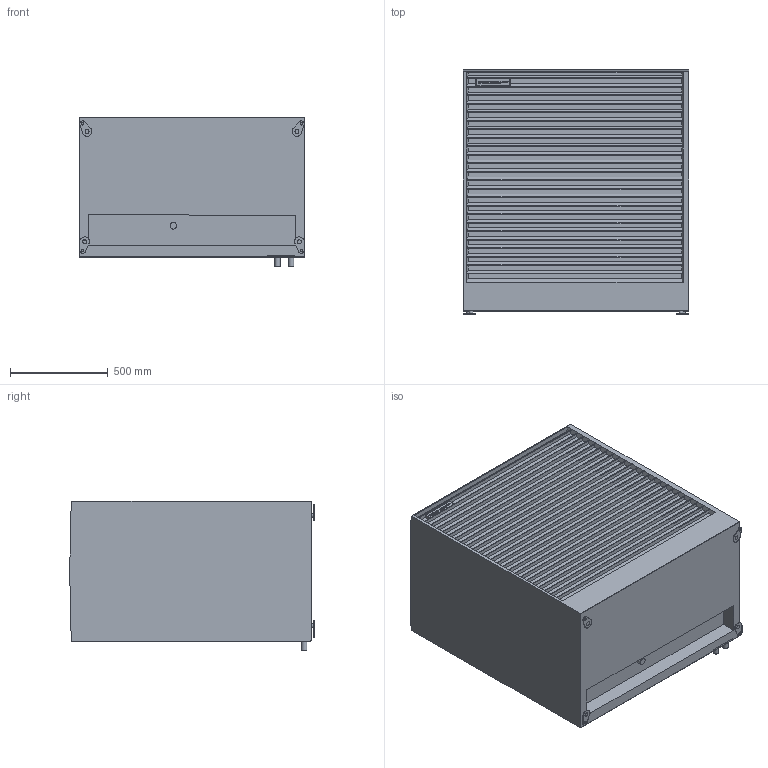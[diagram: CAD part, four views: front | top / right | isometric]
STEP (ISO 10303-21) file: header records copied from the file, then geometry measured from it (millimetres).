
FILE_DESCRIPTION (( 'STEP AP214' ), '1' );
FILE_NAME ('ADAPT 2 M,L_zadnji priklop.STEP', '2026-03-09T12:08:14', ( '' ), ( '' ), 'SwSTEP 2.0', 'SolidWorks 2024', '' );
FILE_SCHEMA (( 'AUTOMOTIVE_DESIGN' ));
Length unit declared in the file: millimetre
Products named in the file (1): ADAPT 2 M,L_zadnji priklop
Bounding box: 1150 x 1249.29 x 765 mm (x, y, z)
Volume: 944940768.5 mm3; surface area: 8961827.1 mm2
Topology: 3 solids, 3 shells, 546 faces, 1499 edges, 994 vertices
Faces by surface type: plane 461, bspline 56, cylinder 29
Full cylindrical faces by diameter (mm): 13 x4, 19 x4, 28 x2, 34.029 x1
Entity records: 25487 total; most frequent: CARTESIAN_POINT 6001, ORIENTED_EDGE 2956, DIRECTION 2388, EDGE_CURVE 1478, LINE 1314, VECTOR 1314, VERTEX_POINT 988, EDGE_LOOP 604
